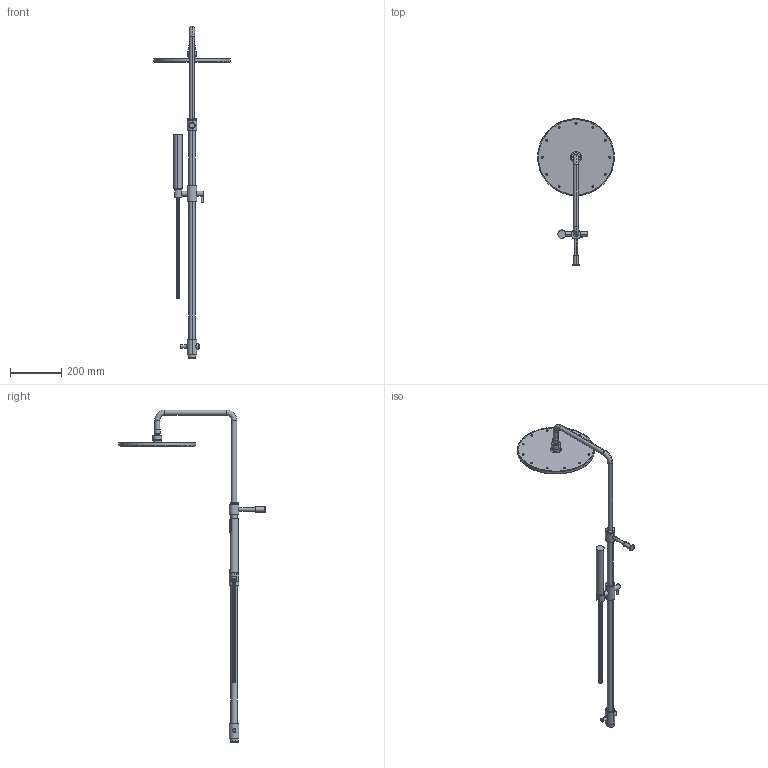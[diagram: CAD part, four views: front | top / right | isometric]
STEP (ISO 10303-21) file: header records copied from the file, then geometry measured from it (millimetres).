
FILE_DESCRIPTION((''),'2;1');
FILE_NAME('F2120L_FILE_3D','2013-11-18T',('ivanv'),(''),'PRO/ENGINEER BY PARAMETRIC TECHNOLOGY CORPORATION, 2012130','PRO/ENGINEER BY PARAMETRIC TECHNOLOGY CORPORATION, 2012130','');
FILE_SCHEMA(('CONFIG_CONTROL_DESIGN'));
Products named in the file (1): F2120L_FILE_3D
Bounding box: 300 x 571.5 x 1295.15 mm (x, y, z)
Volume: 1840190.5 mm3; surface area: 390106.2 mm2
Topology: 1 solids, 6 shells, 1572 faces, 3329 edges, 2179 vertices
Faces by surface type: cylinder 1036, plane 416, bspline 62, torus 32, cone 18, sphere 8
Entity records: 88630 total; most frequent: CARTESIAN_POINT 54261, DIRECTION 7435, ORIENTED_EDGE 6658, EDGE_CURVE 3329, AXIS2_PLACEMENT_3D 3160, VERTEX_POINT 2179, EDGE_LOOP 1984, CIRCLE 1650
